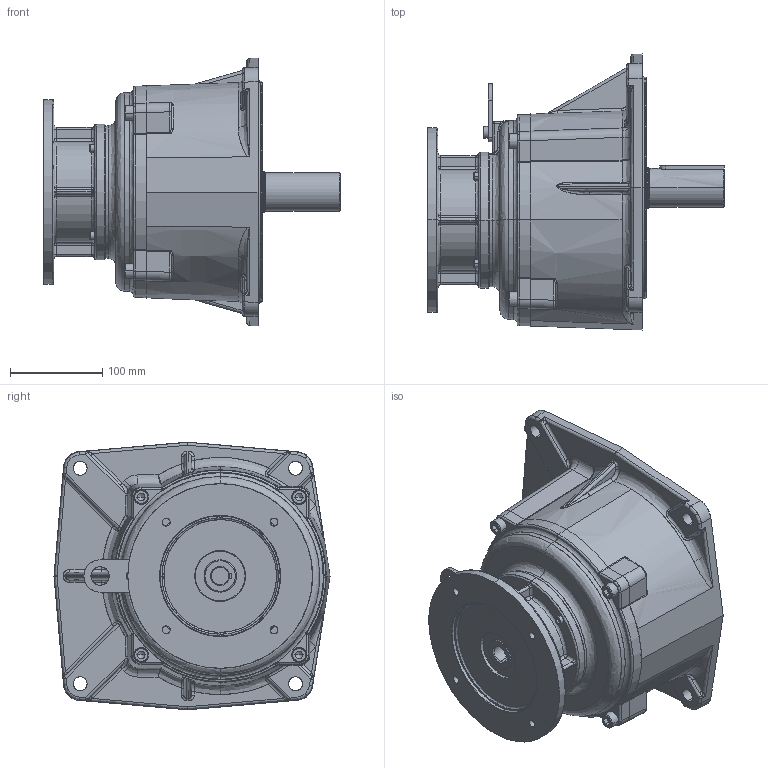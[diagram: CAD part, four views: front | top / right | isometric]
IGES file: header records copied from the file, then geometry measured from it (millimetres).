
Start section: SolidWorks IGES file using analytic representation for surfaces
Bounding box: 321 x 299 x 290 mm (x, y, z)
Surface area: 557004.9 mm2 (no closed solid volume)
Topology: 0 solids, 0 shells, 889 faces, 10808 edges, 10732 vertices
Faces by surface type: bspline 505, revolution 384
